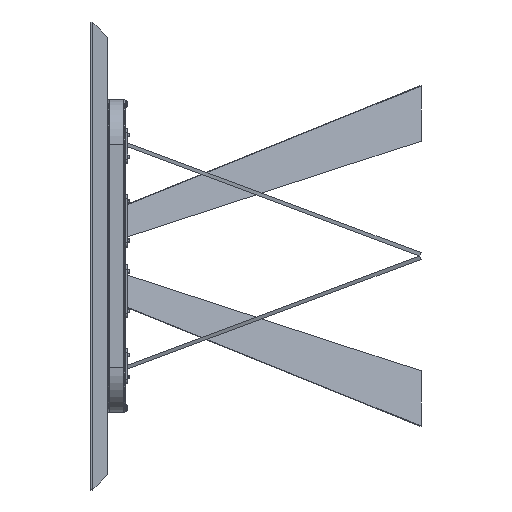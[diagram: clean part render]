
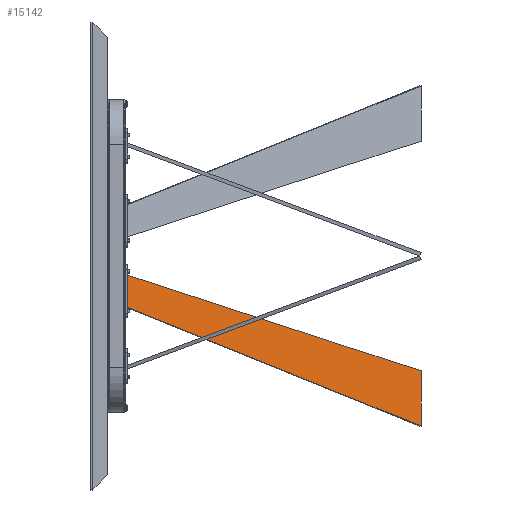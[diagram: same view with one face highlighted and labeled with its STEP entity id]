
A CAD part, left-side view. The second image highlights one B-rep face of the part: STEP entity #15142.
In plain terms, the highlighted planar face has unit normal (-0.937, -0.35, 0) as drawn and (-1, 0, 0) by its records, which use the part's own axes.
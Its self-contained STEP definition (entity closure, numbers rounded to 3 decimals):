
#846 = DIRECTION ( 'NONE',  ( 0., 0.292, 0.956 ) ) ;
#2052 = EDGE_LOOP ( 'NONE', ( #18931, #22457, #13706, #3240 ) ) ;
#2334 = EDGE_CURVE ( 'NONE', #20259, #19911, #3448, .T. ) ;
#3006 = AXIS2_PLACEMENT_3D ( 'NONE', #3071, #22644, #6575 ) ;
#3071 = CARTESIAN_POINT ( 'NONE',  ( -4., 0., 0. ) ) ;
#3203 = CARTESIAN_POINT ( 'NONE',  ( -4., 794., 0. ) ) ;
#3240 = ORIENTED_EDGE ( 'NONE', *, *, #14807, .F. ) ;
#3448 = LINE ( 'NONE', #14252, #19889 ) ;
#3610 = DIRECTION ( 'NONE',  ( 0., -0.998, -0.066 ) ) ;
#4287 = VERTEX_POINT ( 'NONE', #21813 ) ;
#5044 = CARTESIAN_POINT ( 'NONE',  ( -4., 51.777, 0. ) ) ;
#6575 = DIRECTION ( 'NONE',  ( 0., 0., -1. ) ) ;
#6846 = VECTOR ( 'NONE', #10763, 1000. ) ;
#6927 = FACE_OUTER_BOUND ( 'NONE', #2052, .T. ) ;
#6999 = LINE ( 'NONE', #17559, #6846 ) ;
#7059 = EDGE_CURVE ( 'NONE', #20259, #4287, #6999, .T. ) ;
#7418 = DIRECTION ( 'NONE',  ( 0., 1., 0. ) ) ;
#10763 = DIRECTION ( 'NONE',  ( 0., 0.292, 0.956 ) ) ;
#10888 = LINE ( 'NONE', #19796, #12245 ) ;
#11241 = VECTOR ( 'NONE', #846, 1000. ) ;
#11630 = CARTESIAN_POINT ( 'NONE',  ( -4., 830.546, 119.538 ) ) ;
#12245 = VECTOR ( 'NONE', #3610, 1000. ) ;
#13062 = LINE ( 'NONE', #20305, #11241 ) ;
#13360 = VERTEX_POINT ( 'NONE', #11630 ) ;
#13706 = ORIENTED_EDGE ( 'NONE', *, *, #20952, .F. ) ;
#14252 = CARTESIAN_POINT ( 'NONE',  ( -4., 0., 0. ) ) ;
#14807 = EDGE_CURVE ( 'NONE', #19911, #13360, #13062, .T. ) ;
#15142 = ADVANCED_FACE ( 'NONE', ( #6927 ), #20876, .F. ) ;
#17559 = CARTESIAN_POINT ( 'NONE',  ( -4., 47.351, -14.477 ) ) ;
#18931 = ORIENTED_EDGE ( 'NONE', *, *, #2334, .F. ) ;
#19796 = CARTESIAN_POINT ( 'NONE',  ( -4., 830.546, 119.538 ) ) ;
#19889 = VECTOR ( 'NONE', #7418, 1000. ) ;
#19911 = VERTEX_POINT ( 'NONE', #3203 ) ;
#20259 = VERTEX_POINT ( 'NONE', #5044 ) ;
#20305 = CARTESIAN_POINT ( 'NONE',  ( -4., 794., 0. ) ) ;
#20876 = PLANE ( 'NONE',  #3006 ) ;
#20952 = EDGE_CURVE ( 'NONE', #13360, #4287, #10888, .T. ) ;
#21813 = CARTESIAN_POINT ( 'NONE',  ( -4., 73.118, 69.801 ) ) ;
#22457 = ORIENTED_EDGE ( 'NONE', *, *, #7059, .T. ) ;
#22644 = DIRECTION ( 'NONE',  ( 1., 0., 0. ) ) ;
